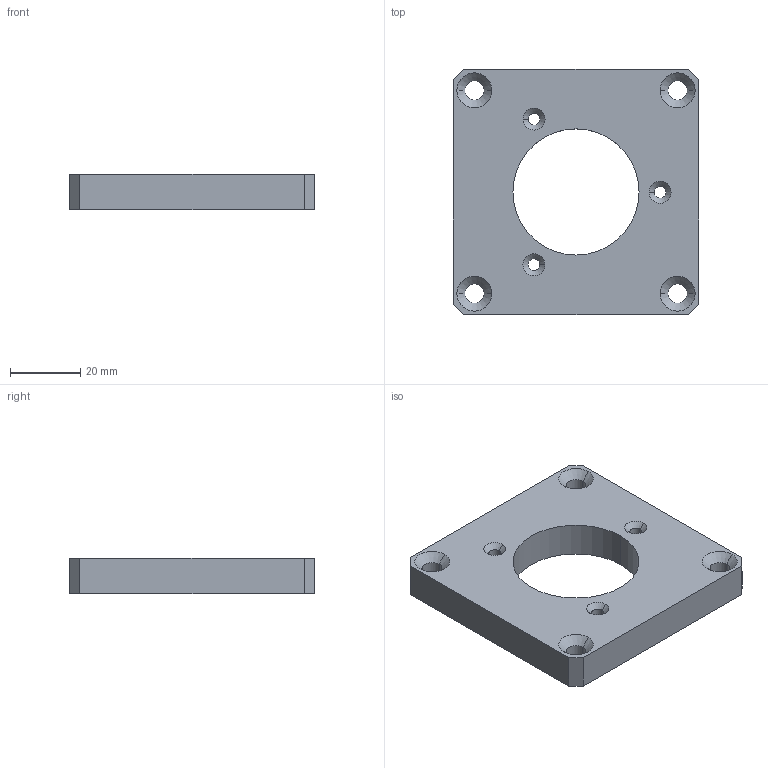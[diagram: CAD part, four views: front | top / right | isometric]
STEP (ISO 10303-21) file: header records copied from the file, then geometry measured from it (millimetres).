
FILE_DESCRIPTION (( 'STEP AP214' ), '1' );
FILE_NAME ('8.0010.2600.0000.STEP', '2014-11-06T12:38:01', ( 'admin' ), ( 'Microsoft' ), 'SwSTEP 2.0', 'SolidWorks 2013', '' );
FILE_SCHEMA (( 'AUTOMOTIVE_DESIGN' ));
Length unit declared in the file: millimetre
Products named in the file (1): 8.0010.2600.0000
Bounding box: 70 x 70 x 10 mm (x, y, z)
Volume: 36929.9 mm3; surface area: 12207.5 mm2
Topology: 1 solids, 1 shells, 48 faces, 116 edges, 70 vertices
Faces by surface type: cone 22, cylinder 16, plane 10
Entity records: 1464 total; most frequent: DIRECTION 268, CARTESIAN_POINT 235, ORIENTED_EDGE 232, EDGE_CURVE 116, AXIS2_PLACEMENT_3D 103, VERTEX_POINT 70, EDGE_LOOP 64, LINE 62
